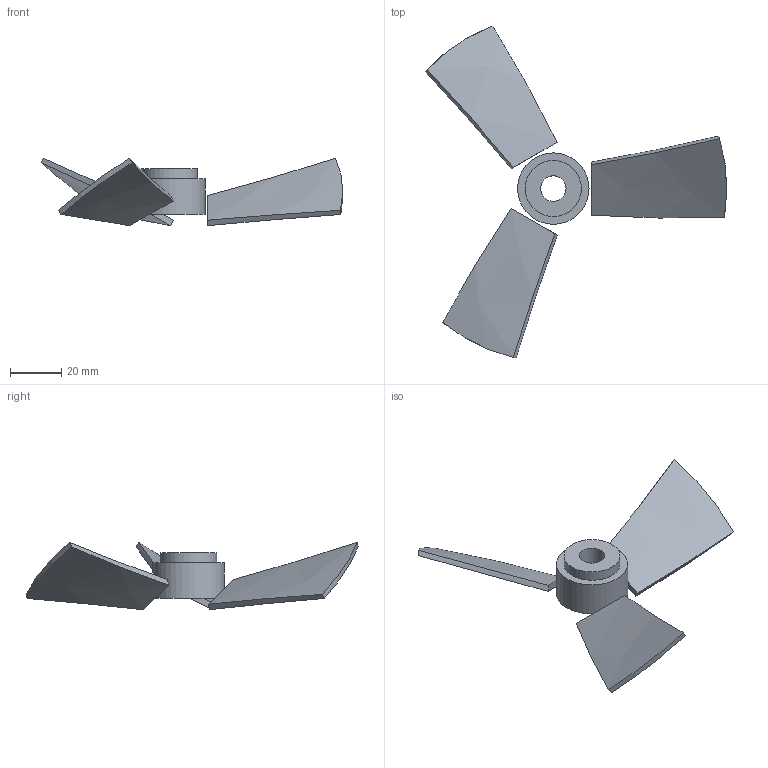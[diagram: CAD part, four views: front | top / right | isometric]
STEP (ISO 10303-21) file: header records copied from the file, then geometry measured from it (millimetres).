
FILE_DESCRIPTION(('Open CASCADE Model'),'2;1');
FILE_NAME('Open CASCADE Shape Model','2026-10-27T17:05:22',('Author'),( 'Open CASCADE'),'Open CASCADE STEP processor 8.0','build123d', 'Unknown');
FILE_SCHEMA(('AUTOMOTIVE_DESIGN { 1 0 10303 214 1 1 1 1 }'));
Length unit declared in the file: millimetre
Products named in the file (1): COMPOUND
Bounding box: 118.21 x 130.15 x 26.44 mm (x, y, z)
Volume: 18938.4 mm3; surface area: 13622.6 mm2
Topology: 4 solids, 4 shells, 24 faces, 45 edges, 30 vertices
Faces by surface type: bspline 12, plane 6, cylinder 6
Full cylindrical faces by diameter (mm): 10 x1, 22 x1, 28 x1
Entity records: 1572 total; most frequent: CARTESIAN_POINT 754, DIRECTION 95, ORIENTED_EDGE 90, PCURVE 90, DEFINITIONAL_REPRESENTATION 90, B_SPLINE_CURVE_WITH_KNOTS 72, LINE 51, VECTOR 51
